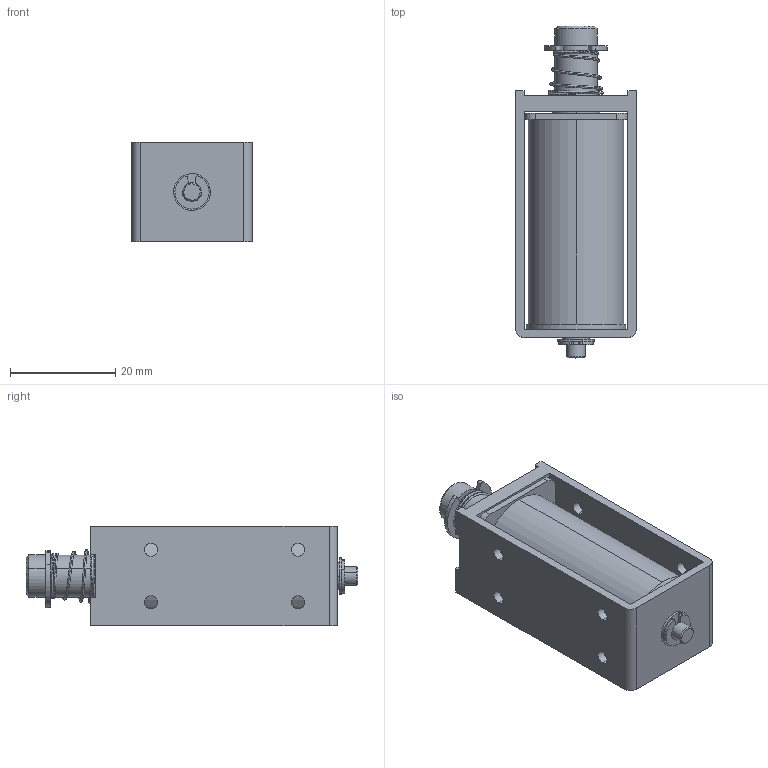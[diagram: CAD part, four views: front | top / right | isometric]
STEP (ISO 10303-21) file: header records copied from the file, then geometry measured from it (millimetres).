
FILE_DESCRIPTION (( 'STEP AP203' ), '1' );
FILE_NAME ('w_cb0847.STEP', '2014-07-16T04:48:27', ( 'jiba' ), ( 'Hewlett-Packard Company' ), 'SwSTEP 2.0', 'SolidWorks 2014', '' );
FILE_SCHEMA (( 'CONFIG_CONTROL_DESIGN' ));
Length unit declared in the file: millimetre
Products named in the file (4): Part4^w_cb0847; Part1^w_cb0847_pl; w_20830083; w_cb0847
Assembly tree (3 placements, depth 2):
  w_cb0847
    Part4^w_cb0847
    Part1^w_cb0847_pl
    w_20830083
Bounding box: 23 x 63.2 x 19 mm (x, y, z)
Volume: 15751.8 mm3; surface area: 11362.2 mm2
Topology: 3 solids, 3 shells, 168 faces, 461 edges, 301 vertices
Faces by surface type: cylinder 95, plane 65, cone 6, bspline 2
Entity records: 8642 total; most frequent: CARTESIAN_POINT 3704, DIRECTION 1026, ORIENTED_EDGE 922, EDGE_CURVE 461, AXIS2_PLACEMENT_3D 399, VERTEX_POINT 301, LINE 228, VECTOR 228
